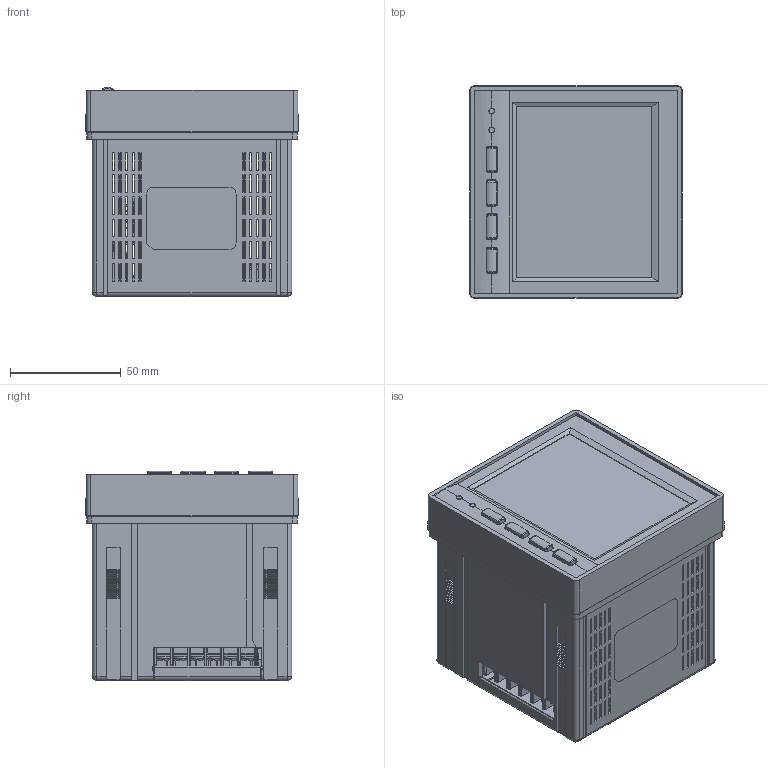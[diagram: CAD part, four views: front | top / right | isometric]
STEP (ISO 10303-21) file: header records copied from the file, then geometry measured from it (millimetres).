
FILE_DESCRIPTION (( 'STEP AP214' ), '1' );
FILE_NAME ('DPM-C530.STEP', '2018-04-11T02:55:29', ( 'Z220' ), ( 'Hewlett-Packard Company' ), 'SwSTEP 2.0', 'SolidWorks 2015', '' );
FILE_SCHEMA (( 'AUTOMOTIVE_DESIGN' ));
Length unit declared in the file: millimetre
Products named in the file (25): C510 meter case base; ek950v-06p; BPHFZ-10R-B-032-0_asm; DPM-C530; Y25417801D_4-1; Y25417801D_3-1; Y25417801D_2-1; Y25417801D_1-1; Y25417801D-1; Y25412501D_4-1; Y25412501D_3-1; Y25412501D_2-1; Y25412501D_1-1; Y25412501D-1; BPHFZ-10-0-1; ech350r-03p1; DT-25-B14W-06; ESD  cover; 3230318900; Lance; 2300850505; terminla cover; o-ring-B; meter case cover(20160127); VLTW2021-assembly
Assembly tree (26 placements, depth 3):
  DPM-C530
    C510 meter case base
    meter case cover(20160127)
    terminla cover
    Lance  x2
    ESD  cover
    DT-25-B14W-06
    ech350r-03p1
    BPHFZ-10R-B-032-0_asm
      BPHFZ-10-0-1
      Y25412501D-1
      Y25412501D_1-1
      Y25412501D_2-1
      Y25412501D_3-1
      Y25412501D_4-1
      Y25417801D-1
      Y25417801D_1-1
      Y25417801D_2-1
      Y25417801D_3-1
      Y25417801D_4-1
    ek950v-06p
    VLTW2021-assembly
    o-ring-B
    2300850505  x2
    3230318900
Bounding box: 95.99 x 95.99 x 94.48 mm (x, y, z)
Volume: 150578.4 mm3; surface area: 151248.4 mm2
Topology: 31 solids, 35 shells, 3700 faces, 10135 edges, 6604 vertices
Faces by surface type: plane 2743, cylinder 665, cone 124, bspline 109, torus 55, sphere 4
Entity records: 120162 total; most frequent: CARTESIAN_POINT 26317, ORIENTED_EDGE 20078, DIRECTION 17956, EDGE_CURVE 10039, LINE 7890, VECTOR 7890, VERTEX_POINT 6548, AXIS2_PLACEMENT_3D 5033
